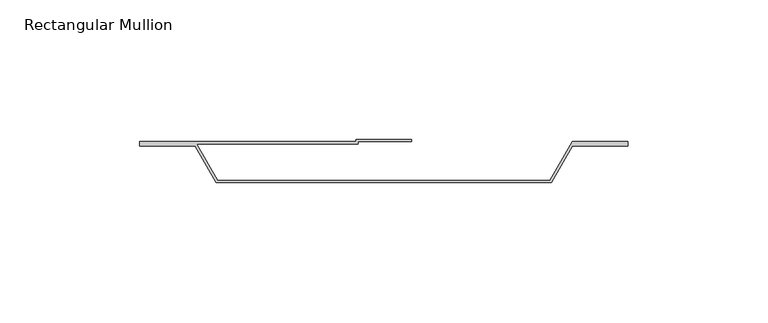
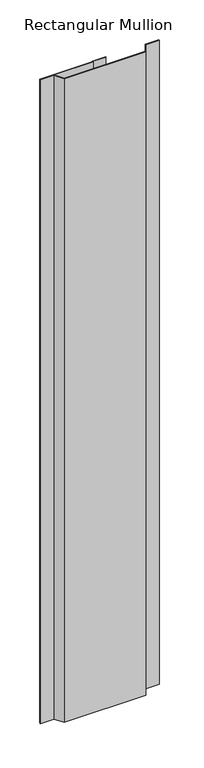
"""IFC4 building model written with IfcOpenShell, lengths in millimetres: member geometry, Rectangular Mullion : TE-H-01_01_Joint flashing."""

from ifc_helpers import new_model, si_unit, frame, origin, place, context, project, spatial, polyline, outline, extrude, source, transform, mapped, element, save


def rectangular_mullion_135eb77f(model_context):
    return source(origin(), model_context, "Body", "SweptSolid", [
        extrude(outline(polyline([(59.9999986, -15.4903818), (-59.9999986, -15.4903818), (-67.5577341, -2.4), (-87.5, -2.4), (-87.5, -0.8), (-10.0, -0.8), (-10.0, 0.0), (10.0, 0.0), (10.0, -0.8), (-9.2, -0.8), (-9.2, -1.6), (-67.0958539, -1.6), (-59.5381184, -14.6903818), (59.5381184, -14.6903818), (67.5577341, -0.8), (87.5, -0.8), (87.5, -2.4), (67.5577341, -2.4), (59.9999986, -15.4903818)])), frame((0.0, 0.0, -1000.0), z_axis=(0.0, 0.0, 1.0), x_axis=(1.0, 0.0, 0.0)), (0.0, 0.0, 1.0), 1000.0),
    ])


if __name__ == "__main__":
    model = new_model("IFC4")
    model_context = context("Model", 3, world=origin())
    ifc_project = project(units=[si_unit("LENGTHUNIT", "METRE", prefix="MILLI")], contexts=[model_context])
    site = spatial("IfcSite", under=ifc_project)
    building = spatial("IfcBuilding", under=site)
    placement = place(None, origin())
    rectangular_mullion_shape = rectangular_mullion_135eb77f(model_context)
    element("IfcMember", 1, ObjectType="Rectangular Mullion : TE-H-01_01_Joint flashing", at=placement, inside=building, context=model_context, shape_type="MappedRepresentation", body=[
        mapped(rectangular_mullion_shape, transform((0.0, 0.0, 0.0), x_axis=(1.0, 0.0, 0.0), y_axis=(0.0, 1.0, 0.0), z_axis=(0.0, 0.0, 1.0))),
    ])
    save(model, "model.ifc")
